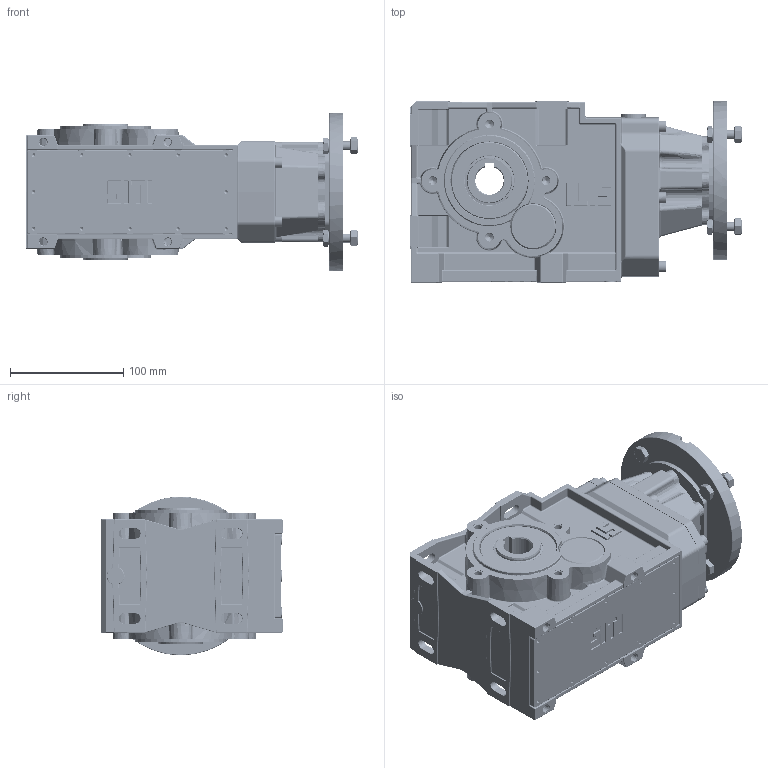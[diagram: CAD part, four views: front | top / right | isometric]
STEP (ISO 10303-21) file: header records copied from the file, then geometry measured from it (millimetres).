
FILE_DESCRIPTION((''),'2;1');
FILE_NAME('C:\Users\m.piscopiello.SITIRIDUTTORI\Desktop\3D x SITO\MBH 56 PAM 63\MBH_56 C PAM63 B5.stp','2013-04-23T16:48:39',('m.piscopiello'),(''),'Autodesk Inventor 2012','Autodesk Inventor 2012','');
FILE_SCHEMA(('CONFIG_CONTROL_DESIGN'));
Length unit declared in the file: millimetre
Products named in the file (1): MBH_56 C PAM63 B5
Bounding box: 292.8 x 160 x 140 mm (x, y, z)
Volume: 1367362.4 mm3; surface area: 458177.1 mm2
Topology: 1 solids, 62 shells, 4645 faces, 11160 edges, 6555 vertices
Faces by surface type: cylinder 1416, plane 1365, bspline 824, torus 497, cone 360, sphere 183
Full cylindrical faces by diameter (mm): 3.242 x12, 6 x16, 6.5 x6, 6.647 x12, 7 x24, 8 x8, 8.7 x11, 9 x4, 9.5 x1, 9.95 x1, 10 x25, 11 x7, 12.7 x1, 16 x3, 19 x1, 19.37 x1, 19.97 x2, 23.5 x1, 33 x1, 34.4 x1, 35 x4, 36.875 x2, 39.4 x1, 40 x18, 41 x1, 42 x1, 42.25 x1, 42.5 x4, 43.75 x2, 45.438 x2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
Entity records: 152632 total; most frequent: CARTESIAN_POINT 48163, DIRECTION 20768, ORIENTED_EDGE 20132, EDGE_CURVE 10068, AXIS2_PLACEMENT_3D 8422, VERTEX_POINT 6260, EDGE_LOOP 5474, FACE_OUTER_BOUND 4645
